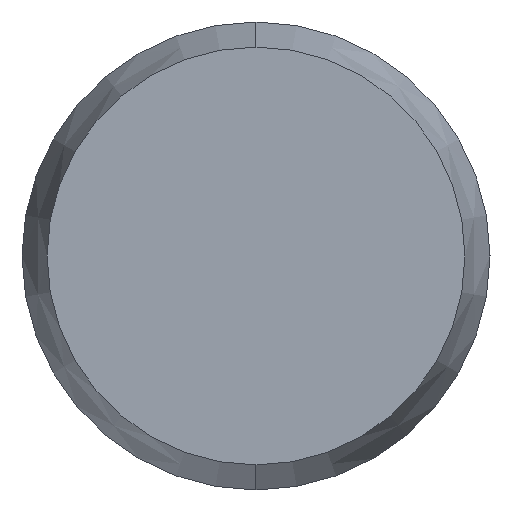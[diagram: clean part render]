
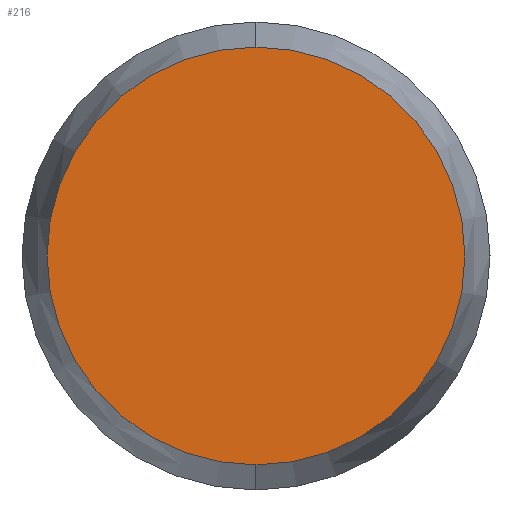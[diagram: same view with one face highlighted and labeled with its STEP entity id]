
A CAD part, left-side view. The second image highlights one B-rep face of the part: STEP entity #216.
In plain terms, the highlighted planar face has unit normal (-1, 0, 0).
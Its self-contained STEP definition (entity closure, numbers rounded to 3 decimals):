
#26 = CARTESIAN_POINT ( 'NONE',  ( -8., 0., -0.893 ) ) ;
#56 = CARTESIAN_POINT ( 'NONE',  ( -8., 0., 0. ) ) ;
#66 = CARTESIAN_POINT ( 'NONE',  ( -8., 0., 0.893 ) ) ;
#67 = DIRECTION ( 'NONE',  ( 0., 0., -1. ) ) ;
#68 = DIRECTION ( 'NONE',  ( 1., 0., 0. ) ) ;
#69 = AXIS2_PLACEMENT_3D ( 'NONE', #56, #68, #67 ) ;
#73 = CIRCLE ( 'NONE', #69, 0.893 ) ;
#93 = DIRECTION ( 'NONE',  ( 0., 0., -1. ) ) ;
#94 = DIRECTION ( 'NONE',  ( 1., 0., 0. ) ) ;
#95 = CARTESIAN_POINT ( 'NONE',  ( -8., 0., 0. ) ) ;
#98 = AXIS2_PLACEMENT_3D ( 'NONE', #95, #94, #93 ) ;
#99 = PLANE ( 'NONE',  #98 ) ;
#100 = DIRECTION ( 'NONE',  ( 0., 0., -1. ) ) ;
#101 = DIRECTION ( 'NONE',  ( 1., 0., 0. ) ) ;
#102 = CARTESIAN_POINT ( 'NONE',  ( -8., 0., 0. ) ) ;
#103 = AXIS2_PLACEMENT_3D ( 'NONE', #102, #101, #100 ) ;
#104 = CIRCLE ( 'NONE', #103, 0.893 ) ;
#105 = FACE_OUTER_BOUND ( 'NONE', #226, .T. ) ;
#206 = ORIENTED_EDGE ( 'NONE', *, *, #213, .F. ) ;
#213 = EDGE_CURVE ( 'NONE', #244, #262, #104, .T. ) ;
#216 = ADVANCED_FACE ( 'NONE', ( #105 ), #99, .F. ) ;
#217 = ORIENTED_EDGE ( 'NONE', *, *, #256, .F. ) ;
#226 = EDGE_LOOP ( 'NONE', ( #217, #206 ) ) ;
#244 = VERTEX_POINT ( 'NONE', #26 ) ;
#256 = EDGE_CURVE ( 'NONE', #262, #244, #73, .T. ) ;
#262 = VERTEX_POINT ( 'NONE', #66 ) ;
